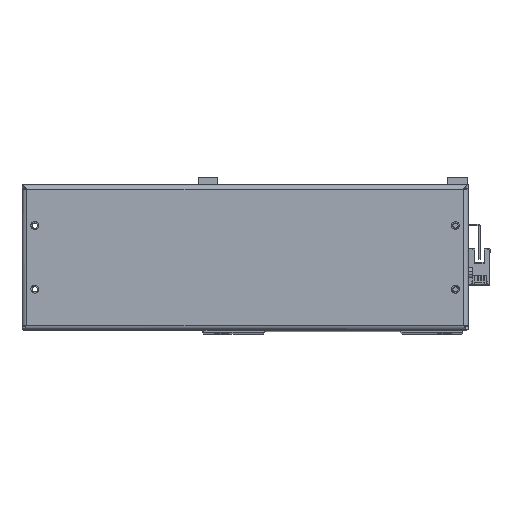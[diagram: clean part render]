
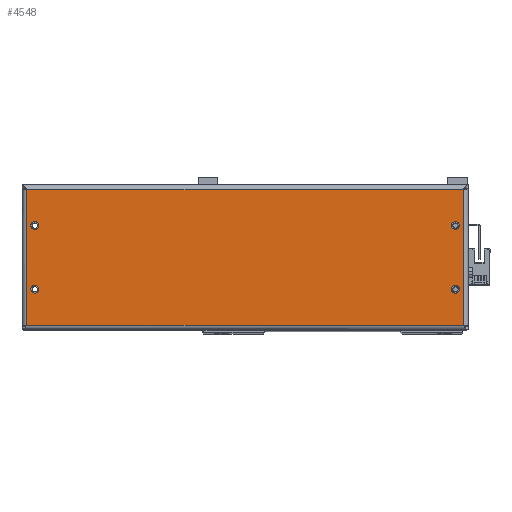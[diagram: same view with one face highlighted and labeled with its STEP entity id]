
A CAD part, top view. The second image highlights one B-rep face of the part: STEP entity #4548.
In plain terms, the highlighted planar face has unit normal (0, 0, 1) as drawn and (0, 0, -1) by its records, which use the part's own axes.
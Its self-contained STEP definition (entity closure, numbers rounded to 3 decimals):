
#113 = CIRCLE ( 'NONE', #6668, 2.5 ) ;
#365 = AXIS2_PLACEMENT_3D ( 'NONE', #7278, #28744, #18280 ) ;
#476 = ORIENTED_EDGE ( 'NONE', *, *, #26961, .F. ) ;
#1143 = CIRCLE ( 'NONE', #12695, 2.5 ) ;
#1272 = DIRECTION ( 'NONE',  ( 0., -1., 0. ) ) ;
#1391 = ORIENTED_EDGE ( 'NONE', *, *, #11446, .T. ) ;
#1440 = FACE_BOUND ( 'NONE', #25918, .T. ) ;
#1782 = DIRECTION ( 'NONE',  ( 0., -1., 0. ) ) ;
#1933 = CARTESIAN_POINT ( 'NONE',  ( 3316.375, 127.912, -59. ) ) ;
#2131 = EDGE_CURVE ( 'NONE', #10156, #20553, #21247, .T. ) ;
#2490 = DIRECTION ( 'NONE',  ( 0., -1., 0. ) ) ;
#3030 = ORIENTED_EDGE ( 'NONE', *, *, #17109, .F. ) ;
#3912 = CARTESIAN_POINT ( 'NONE',  ( 3317.022, 127.912, -59. ) ) ;
#3924 = DIRECTION ( 'NONE',  ( 0., 0., -1. ) ) ;
#4014 = DIRECTION ( 'NONE',  ( 0., -1., 0. ) ) ;
#4548 = ADVANCED_FACE ( 'NONE', ( #1440, #24808, #33182, #27902, #22921 ), #7276, .T. ) ;
#5521 = CIRCLE ( 'NONE', #13775, 2.5 ) ;
#5839 = DIRECTION ( 'NONE',  ( 0., -1., 0. ) ) ;
#6491 = DIRECTION ( 'NONE',  ( 0., 0., -1. ) ) ;
#6658 = VERTEX_POINT ( 'NONE', #10180 ) ;
#6668 = AXIS2_PLACEMENT_3D ( 'NONE', #18206, #23701, #23878 ) ;
#6847 = EDGE_CURVE ( 'NONE', #26521, #26183, #24425, .T. ) ;
#7276 = PLANE ( 'NONE',  #17107 ) ;
#7278 = CARTESIAN_POINT ( 'NONE',  ( 3322.022, 105.412, -59. ) ) ;
#8444 = DIRECTION ( 'NONE',  ( 0., 1., 0. ) ) ;
#9410 = ORIENTED_EDGE ( 'NONE', *, *, #10531, .T. ) ;
#9682 = CARTESIAN_POINT ( 'NONE',  ( 3454.022, 85.412, -59. ) ) ;
#10156 = VERTEX_POINT ( 'NONE', #29984 ) ;
#10180 = CARTESIAN_POINT ( 'NONE',  ( 3586.022, 67.912, -59. ) ) ;
#10531 = EDGE_CURVE ( 'NONE', #26183, #28277, #11733, .T. ) ;
#10553 = CARTESIAN_POINT ( 'NONE',  ( 3586.022, 62.912, -59. ) ) ;
#10569 = ORIENTED_EDGE ( 'NONE', *, *, #2131, .F. ) ;
#10616 = AXIS2_PLACEMENT_3D ( 'NONE', #32845, #14679, #1272 ) ;
#10718 = DIRECTION ( 'NONE',  ( 0., 0., -1. ) ) ;
#11137 = AXIS2_PLACEMENT_3D ( 'NONE', #27446, #6491, #14880 ) ;
#11446 = EDGE_CURVE ( 'NONE', #11753, #26521, #29307, .T. ) ;
#11733 = LINE ( 'NONE', #1933, #16561 ) ;
#11753 = VERTEX_POINT ( 'NONE', #33159 ) ;
#11977 = EDGE_CURVE ( 'NONE', #13762, #29296, #1143, .T. ) ;
#12695 = AXIS2_PLACEMENT_3D ( 'NONE', #16674, #3924, #29860 ) ;
#12749 = ORIENTED_EDGE ( 'NONE', *, *, #26490, .T. ) ;
#13646 = VECTOR ( 'NONE', #8444, 1000. ) ;
#13762 = VERTEX_POINT ( 'NONE', #25168 ) ;
#13775 = AXIS2_PLACEMENT_3D ( 'NONE', #18631, #10718, #16393 ) ;
#13934 = VERTEX_POINT ( 'NONE', #10553 ) ;
#14095 = CARTESIAN_POINT ( 'NONE',  ( 3586.022, 102.912, -59. ) ) ;
#14199 = CARTESIAN_POINT ( 'NONE',  ( 3322.022, 105.412, -59. ) ) ;
#14679 = DIRECTION ( 'NONE',  ( 0., 0., -1. ) ) ;
#14831 = EDGE_LOOP ( 'NONE', ( #25285, #24926 ) ) ;
#14880 = DIRECTION ( 'NONE',  ( 0., -1., 0. ) ) ;
#16181 = VECTOR ( 'NONE', #32060, 1000. ) ;
#16393 = DIRECTION ( 'NONE',  ( 0., -1., 0. ) ) ;
#16561 = VECTOR ( 'NONE', #32978, 1000. ) ;
#16674 = CARTESIAN_POINT ( 'NONE',  ( 3322.022, 65.412, -59. ) ) ;
#16767 = CIRCLE ( 'NONE', #29875, 2.5 ) ;
#17107 = AXIS2_PLACEMENT_3D ( 'NONE', #9682, #19823, #1782 ) ;
#17109 = EDGE_CURVE ( 'NONE', #20553, #10156, #16767, .T. ) ;
#17773 = EDGE_LOOP ( 'NONE', ( #9410, #12749, #1391, #33039 ) ) ;
#17784 = CARTESIAN_POINT ( 'NONE',  ( 3586.022, 65.412, -59. ) ) ;
#18206 = CARTESIAN_POINT ( 'NONE',  ( 3586.022, 65.412, -59. ) ) ;
#18280 = DIRECTION ( 'NONE',  ( 0., -1., 0. ) ) ;
#18461 = EDGE_LOOP ( 'NONE', ( #476, #30090 ) ) ;
#18631 = CARTESIAN_POINT ( 'NONE',  ( 3586.022, 105.412, -59. ) ) ;
#18879 = CARTESIAN_POINT ( 'NONE',  ( 3591.022, 128.559, -59. ) ) ;
#19206 = CARTESIAN_POINT ( 'NONE',  ( 3317.022, 42.912, -59. ) ) ;
#19480 = CIRCLE ( 'NONE', #27178, 2.5 ) ;
#19823 = DIRECTION ( 'NONE',  ( 0., 0., -1. ) ) ;
#19911 = VECTOR ( 'NONE', #5839, 1000. ) ;
#20553 = VERTEX_POINT ( 'NONE', #30451 ) ;
#20708 = EDGE_CURVE ( 'NONE', #13934, #6658, #19480, .T. ) ;
#21247 = CIRCLE ( 'NONE', #365, 2.5 ) ;
#21620 = CARTESIAN_POINT ( 'NONE',  ( 3591.668, 42.912, -59. ) ) ;
#21889 = ORIENTED_EDGE ( 'NONE', *, *, #33868, .F. ) ;
#22921 = FACE_OUTER_BOUND ( 'NONE', #17773, .T. ) ;
#23549 = EDGE_CURVE ( 'NONE', #30515, #33093, #5521, .T. ) ;
#23701 = DIRECTION ( 'NONE',  ( 0., 0., -1. ) ) ;
#23878 = DIRECTION ( 'NONE',  ( 0., -1., 0. ) ) ;
#24303 = EDGE_CURVE ( 'NONE', #6658, #13934, #113, .T. ) ;
#24305 = CARTESIAN_POINT ( 'NONE',  ( 3591.022, 127.912, -59. ) ) ;
#24371 = LINE ( 'NONE', #18879, #19911 ) ;
#24425 = LINE ( 'NONE', #31968, #13646 ) ;
#24808 = FACE_BOUND ( 'NONE', #18461, .T. ) ;
#24926 = ORIENTED_EDGE ( 'NONE', *, *, #24303, .F. ) ;
#25168 = CARTESIAN_POINT ( 'NONE',  ( 3322.022, 67.912, -59. ) ) ;
#25285 = ORIENTED_EDGE ( 'NONE', *, *, #20708, .F. ) ;
#25419 = CIRCLE ( 'NONE', #10616, 2.5 ) ;
#25815 = DIRECTION ( 'NONE',  ( 0., 0., -1. ) ) ;
#25918 = EDGE_LOOP ( 'NONE', ( #10569, #3030 ) ) ;
#26093 = EDGE_LOOP ( 'NONE', ( #30971, #21889 ) ) ;
#26183 = VERTEX_POINT ( 'NONE', #3912 ) ;
#26490 = EDGE_CURVE ( 'NONE', #28277, #11753, #24371, .T. ) ;
#26521 = VERTEX_POINT ( 'NONE', #19206 ) ;
#26757 = CARTESIAN_POINT ( 'NONE',  ( 3586.022, 107.912, -59. ) ) ;
#26961 = EDGE_CURVE ( 'NONE', #29296, #13762, #25419, .T. ) ;
#27178 = AXIS2_PLACEMENT_3D ( 'NONE', #17784, #28266, #2490 ) ;
#27446 = CARTESIAN_POINT ( 'NONE',  ( 3586.022, 105.412, -59. ) ) ;
#27902 = FACE_BOUND ( 'NONE', #14831, .T. ) ;
#28110 = CIRCLE ( 'NONE', #11137, 2.5 ) ;
#28266 = DIRECTION ( 'NONE',  ( 0., 0., -1. ) ) ;
#28277 = VERTEX_POINT ( 'NONE', #24305 ) ;
#28744 = DIRECTION ( 'NONE',  ( 0., 0., -1. ) ) ;
#29296 = VERTEX_POINT ( 'NONE', #29993 ) ;
#29307 = LINE ( 'NONE', #21620, #16181 ) ;
#29860 = DIRECTION ( 'NONE',  ( 0., -1., 0. ) ) ;
#29875 = AXIS2_PLACEMENT_3D ( 'NONE', #14199, #25815, #4014 ) ;
#29984 = CARTESIAN_POINT ( 'NONE',  ( 3322.022, 102.912, -59. ) ) ;
#29993 = CARTESIAN_POINT ( 'NONE',  ( 3322.022, 62.912, -59. ) ) ;
#30090 = ORIENTED_EDGE ( 'NONE', *, *, #11977, .F. ) ;
#30451 = CARTESIAN_POINT ( 'NONE',  ( 3322.022, 107.912, -59. ) ) ;
#30515 = VERTEX_POINT ( 'NONE', #14095 ) ;
#30971 = ORIENTED_EDGE ( 'NONE', *, *, #23549, .F. ) ;
#31968 = CARTESIAN_POINT ( 'NONE',  ( 3317.022, 42.266, -59. ) ) ;
#32060 = DIRECTION ( 'NONE',  ( -1., 0., 0. ) ) ;
#32845 = CARTESIAN_POINT ( 'NONE',  ( 3322.022, 65.412, -59. ) ) ;
#32978 = DIRECTION ( 'NONE',  ( 1., 0., 0. ) ) ;
#33039 = ORIENTED_EDGE ( 'NONE', *, *, #6847, .T. ) ;
#33093 = VERTEX_POINT ( 'NONE', #26757 ) ;
#33159 = CARTESIAN_POINT ( 'NONE',  ( 3591.022, 42.912, -59. ) ) ;
#33182 = FACE_BOUND ( 'NONE', #26093, .T. ) ;
#33868 = EDGE_CURVE ( 'NONE', #33093, #30515, #28110, .T. ) ;
